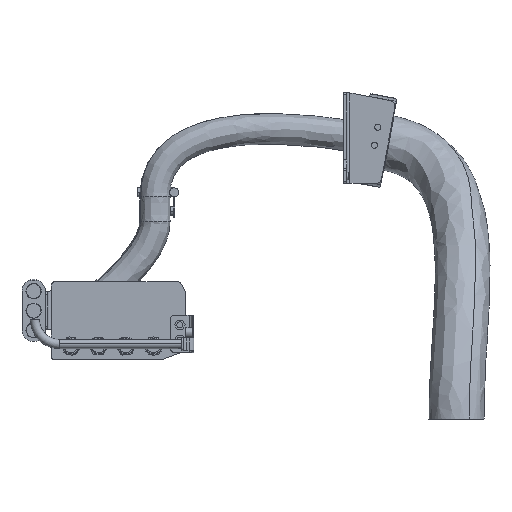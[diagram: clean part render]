
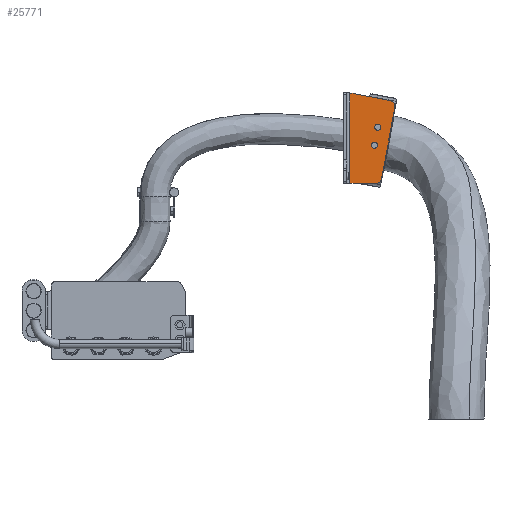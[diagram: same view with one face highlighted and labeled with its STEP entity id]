
A CAD part, left-side view. The second image highlights one B-rep face of the part: STEP entity #25771.
In plain terms, the highlighted planar face has unit normal (-1, 0, 0).
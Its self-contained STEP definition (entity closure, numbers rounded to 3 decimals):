
#129 = LINE ( 'NONE', #22406, #20540 ) ;
#276 = CARTESIAN_POINT ( 'NONE',  ( 529., -176.91, 2625. ) ) ;
#336 = EDGE_CURVE ( 'NONE', #17720, #17556, #21287, .T. ) ;
#820 = DIRECTION ( 'NONE',  ( -1., 0., 0. ) ) ;
#848 = FACE_BOUND ( 'NONE', #10663, .T. ) ;
#2308 = DIRECTION ( 'NONE',  ( 0., 1., 0. ) ) ;
#2401 = CARTESIAN_POINT ( 'NONE',  ( 529., -200.373, 2750.808 ) ) ;
#2465 = CARTESIAN_POINT ( 'NONE',  ( 529., -135., 2615. ) ) ;
#3871 = CARTESIAN_POINT ( 'NONE',  ( 529., -175.5, 2706.992 ) ) ;
#4199 = CARTESIAN_POINT ( 'NONE',  ( 529., -198.54, 2740.978 ) ) ;
#4374 = ORIENTED_EDGE ( 'NONE', *, *, #10786, .F. ) ;
#4812 = CARTESIAN_POINT ( 'NONE',  ( 529., -186.741, 2623.167 ) ) ;
#4877 = EDGE_CURVE ( 'NONE', #34153, #21675, #19739, .T. ) ;
#5290 = CARTESIAN_POINT ( 'NONE',  ( 529., -180.5, 2706.992 ) ) ;
#5524 = CARTESIAN_POINT ( 'NONE',  ( 529., -185.5, 2706.992 ) ) ;
#5855 = ORIENTED_EDGE ( 'NONE', *, *, #336, .F. ) ;
#6024 = DIRECTION ( 'NONE',  ( 0., 1., 0. ) ) ;
#6833 = FACE_OUTER_BOUND ( 'NONE', #28721, .T. ) ;
#7080 = ORIENTED_EDGE ( 'NONE', *, *, #28867, .T. ) ;
#7874 = CIRCLE ( 'NONE', #20908, 5. ) ;
#8327 = DIRECTION ( 'NONE',  ( 0., 1., 0. ) ) ;
#8681 = DIRECTION ( 'NONE',  ( 0., 0.183, -0.983 ) ) ;
#8817 = DIRECTION ( 'NONE',  ( 0., 1., 0. ) ) ;
#8991 = EDGE_CURVE ( 'NONE', #10053, #31895, #11150, .T. ) ;
#9437 = DIRECTION ( 'NONE',  ( 1., 0., 0. ) ) ;
#10001 = PLANE ( 'NONE',  #20265 ) ;
#10053 = VERTEX_POINT ( 'NONE', #28888 ) ;
#10663 = EDGE_LOOP ( 'NONE', ( #5855, #24783 ) ) ;
#10786 = EDGE_CURVE ( 'NONE', #14753, #24328, #30938, .T. ) ;
#10802 = VECTOR ( 'NONE', #10847, 1000. ) ;
#10847 = DIRECTION ( 'NONE',  ( 0., 0., 1. ) ) ;
#10943 = LINE ( 'NONE', #22265, #15442 ) ;
#11062 = CIRCLE ( 'NONE', #14031, 10. ) ;
#11150 = CIRCLE ( 'NONE', #30767, 10. ) ;
#11424 = CARTESIAN_POINT ( 'NONE',  ( 529., -175., 2677.5 ) ) ;
#11608 = DIRECTION ( 'NONE',  ( -1., 0., 0. ) ) ;
#12001 = CARTESIAN_POINT ( 'NONE',  ( 529., -208.37, 2739.144 ) ) ;
#12149 = ORIENTED_EDGE ( 'NONE', *, *, #8991, .T. ) ;
#14031 = AXIS2_PLACEMENT_3D ( 'NONE', #4199, #25025, #19446 ) ;
#14036 = AXIS2_PLACEMENT_3D ( 'NONE', #5290, #14411, #8327 ) ;
#14411 = DIRECTION ( 'NONE',  ( -1., 0., 0. ) ) ;
#14545 = EDGE_CURVE ( 'NONE', #21675, #20012, #23311, .T. ) ;
#14753 = VERTEX_POINT ( 'NONE', #3871 ) ;
#14801 = FACE_BOUND ( 'NONE', #26000, .T. ) ;
#15349 = EDGE_CURVE ( 'NONE', #24328, #14753, #30098, .T. ) ;
#15442 = VECTOR ( 'NONE', #19479, 1000. ) ;
#17038 = CARTESIAN_POINT ( 'NONE',  ( 529., -135., 2763. ) ) ;
#17140 = DIRECTION ( 'NONE',  ( -1., 0., 0. ) ) ;
#17556 = VERTEX_POINT ( 'NONE', #20749 ) ;
#17720 = VERTEX_POINT ( 'NONE', #24137 ) ;
#17898 = DIRECTION ( 'NONE',  ( 0., -0.983, -0.183 ) ) ;
#18461 = CARTESIAN_POINT ( 'NONE',  ( 529., -175., 2677.5 ) ) ;
#18816 = ORIENTED_EDGE ( 'NONE', *, *, #27336, .F. ) ;
#19446 = DIRECTION ( 'NONE',  ( 0., 1., 0. ) ) ;
#19479 = DIRECTION ( 'NONE',  ( 0., -1., 0. ) ) ;
#19739 = LINE ( 'NONE', #25144, #10802 ) ;
#20012 = VERTEX_POINT ( 'NONE', #2401 ) ;
#20265 = AXIS2_PLACEMENT_3D ( 'NONE', #35177, #9437, #35367 ) ;
#20477 = VERTEX_POINT ( 'NONE', #12001 ) ;
#20540 = VECTOR ( 'NONE', #8681, 1000. ) ;
#20749 = CARTESIAN_POINT ( 'NONE',  ( 529., -180., 2677.5 ) ) ;
#20908 = AXIS2_PLACEMENT_3D ( 'NONE', #18461, #820, #29854 ) ;
#21287 = CIRCLE ( 'NONE', #30850, 5. ) ;
#21675 = VERTEX_POINT ( 'NONE', #17038 ) ;
#22265 = CARTESIAN_POINT ( 'NONE',  ( 529., -130., 2615. ) ) ;
#22406 = CARTESIAN_POINT ( 'NONE',  ( 529., -210.035, 2748.074 ) ) ;
#23311 = LINE ( 'NONE', #34580, #31169 ) ;
#24137 = CARTESIAN_POINT ( 'NONE',  ( 529., -170., 2677.5 ) ) ;
#24328 = VERTEX_POINT ( 'NONE', #5524 ) ;
#24783 = ORIENTED_EDGE ( 'NONE', *, *, #30741, .F. ) ;
#24956 = AXIS2_PLACEMENT_3D ( 'NONE', #31528, #34346, #8817 ) ;
#25025 = DIRECTION ( 'NONE',  ( -1., 0., 0. ) ) ;
#25144 = CARTESIAN_POINT ( 'NONE',  ( 529., -135., 2615. ) ) ;
#25771 = ADVANCED_FACE ( 'NONE', ( #6833, #848, #14801 ), #10001, .F. ) ;
#26000 = EDGE_LOOP ( 'NONE', ( #4374, #31346 ) ) ;
#27336 = EDGE_CURVE ( 'NONE', #20477, #31895, #129, .T. ) ;
#28721 = EDGE_LOOP ( 'NONE', ( #7080, #12149, #18816, #30265, #28890, #29012 ) ) ;
#28867 = EDGE_CURVE ( 'NONE', #34153, #10053, #10943, .T. ) ;
#28888 = CARTESIAN_POINT ( 'NONE',  ( 529., -176.91, 2615. ) ) ;
#28890 = ORIENTED_EDGE ( 'NONE', *, *, #14545, .F. ) ;
#29012 = ORIENTED_EDGE ( 'NONE', *, *, #4877, .F. ) ;
#29854 = DIRECTION ( 'NONE',  ( 0., 1., 0. ) ) ;
#30098 = CIRCLE ( 'NONE', #14036, 5. ) ;
#30265 = ORIENTED_EDGE ( 'NONE', *, *, #36516, .T. ) ;
#30741 = EDGE_CURVE ( 'NONE', #17556, #17720, #7874, .T. ) ;
#30767 = AXIS2_PLACEMENT_3D ( 'NONE', #276, #11608, #6024 ) ;
#30850 = AXIS2_PLACEMENT_3D ( 'NONE', #11424, #17140, #2308 ) ;
#30938 = CIRCLE ( 'NONE', #24956, 5. ) ;
#31169 = VECTOR ( 'NONE', #17898, 1000. ) ;
#31346 = ORIENTED_EDGE ( 'NONE', *, *, #15349, .F. ) ;
#31528 = CARTESIAN_POINT ( 'NONE',  ( 529., -180.5, 2706.992 ) ) ;
#31895 = VERTEX_POINT ( 'NONE', #4812 ) ;
#34153 = VERTEX_POINT ( 'NONE', #2465 ) ;
#34346 = DIRECTION ( 'NONE',  ( -1., 0., 0. ) ) ;
#34580 = CARTESIAN_POINT ( 'NONE',  ( 529., -130.168, 2763.901 ) ) ;
#35177 = CARTESIAN_POINT ( 'NONE',  ( 529., -130., 2763. ) ) ;
#35367 = DIRECTION ( 'NONE',  ( 0., 1., 0. ) ) ;
#36516 = EDGE_CURVE ( 'NONE', #20477, #20012, #11062, .T. ) ;
